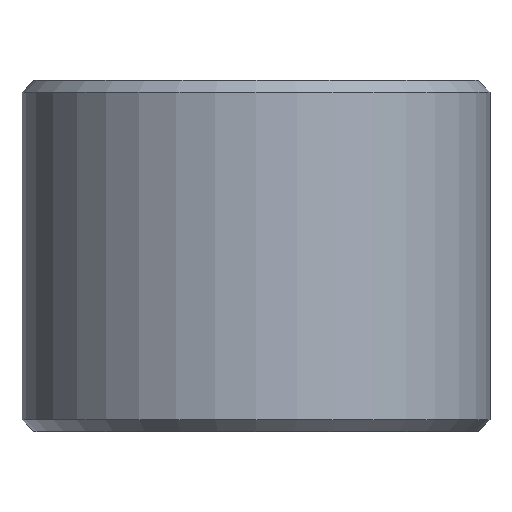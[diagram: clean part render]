
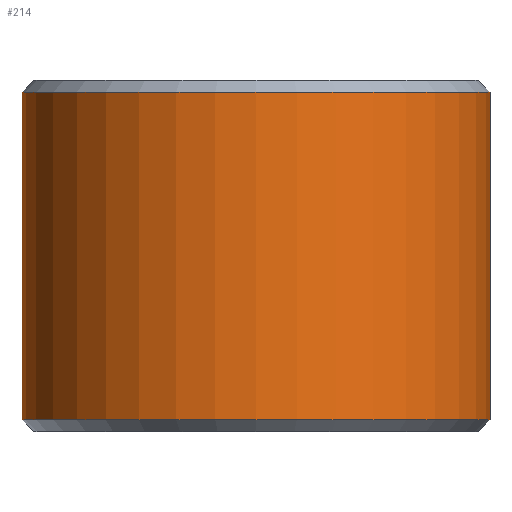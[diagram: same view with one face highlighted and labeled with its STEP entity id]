
A CAD part, front view. The second image highlights one B-rep face of the part: STEP entity #214.
In plain terms, the highlighted cylindrical face has radius 30 mm (diameter 60 mm), a partial arc.
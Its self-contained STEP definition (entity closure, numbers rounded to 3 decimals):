
#1 = CARTESIAN_POINT ( 'NONE',  ( 0., 0., -21. ) ) ;
#2 = CIRCLE ( 'NONE', #363, 30. ) ;
#3 = CARTESIAN_POINT ( 'NONE',  ( 30., 0., 21. ) ) ;
#15 = CIRCLE ( 'NONE', #402, 30. ) ;
#25 = VERTEX_POINT ( 'NONE', #122 ) ;
#35 = DIRECTION ( 'NONE',  ( 1., 0., 0. ) ) ;
#66 = CARTESIAN_POINT ( 'NONE',  ( 0., 0., 21. ) ) ;
#77 = CARTESIAN_POINT ( 'NONE',  ( 30., 0., 22.5 ) ) ;
#103 = DIRECTION ( 'NONE',  ( 0., 0., -1. ) ) ;
#105 = DIRECTION ( 'NONE',  ( -1., 0., 0. ) ) ;
#106 = CYLINDRICAL_SURFACE ( 'NONE', #330, 30. ) ;
#110 = EDGE_CURVE ( 'NONE', #393, #194, #15, .T. ) ;
#119 = ORIENTED_EDGE ( 'NONE', *, *, #400, .T. ) ;
#122 = CARTESIAN_POINT ( 'NONE',  ( -30., 0., -21. ) ) ;
#137 = CARTESIAN_POINT ( 'NONE',  ( 0., 0., 22.5 ) ) ;
#145 = CARTESIAN_POINT ( 'NONE',  ( 30., 0., -21. ) ) ;
#177 = DIRECTION ( 'NONE',  ( 0., 0., -1. ) ) ;
#181 = EDGE_CURVE ( 'NONE', #25, #396, #2, .T. ) ;
#194 = VERTEX_POINT ( 'NONE', #418 ) ;
#197 = DIRECTION ( 'NONE',  ( 0., 0., -1. ) ) ;
#214 = ADVANCED_FACE ( 'NONE', ( #443 ), #106, .T. ) ;
#216 = VECTOR ( 'NONE', #325, 1000. ) ;
#236 = DIRECTION ( 'NONE',  ( 1., 0., 0. ) ) ;
#247 = LINE ( 'NONE', #77, #263 ) ;
#262 = ORIENTED_EDGE ( 'NONE', *, *, #110, .T. ) ;
#263 = VECTOR ( 'NONE', #177, 1000. ) ;
#265 = ORIENTED_EDGE ( 'NONE', *, *, #446, .F. ) ;
#298 = EDGE_LOOP ( 'NONE', ( #265, #262, #119, #436 ) ) ;
#310 = DIRECTION ( 'NONE',  ( 0., 0., 1. ) ) ;
#325 = DIRECTION ( 'NONE',  ( 0., 0., -1. ) ) ;
#330 = AXIS2_PLACEMENT_3D ( 'NONE', #137, #103, #105 ) ;
#353 = CARTESIAN_POINT ( 'NONE',  ( -30., 0., 22.5 ) ) ;
#363 = AXIS2_PLACEMENT_3D ( 'NONE', #1, #310, #35 ) ;
#389 = LINE ( 'NONE', #353, #216 ) ;
#393 = VERTEX_POINT ( 'NONE', #3 ) ;
#396 = VERTEX_POINT ( 'NONE', #145 ) ;
#400 = EDGE_CURVE ( 'NONE', #194, #25, #389, .T. ) ;
#402 = AXIS2_PLACEMENT_3D ( 'NONE', #66, #197, #236 ) ;
#418 = CARTESIAN_POINT ( 'NONE',  ( -30., 0., 21. ) ) ;
#436 = ORIENTED_EDGE ( 'NONE', *, *, #181, .T. ) ;
#443 = FACE_OUTER_BOUND ( 'NONE', #298, .T. ) ;
#446 = EDGE_CURVE ( 'NONE', #393, #396, #247, .T. ) ;
